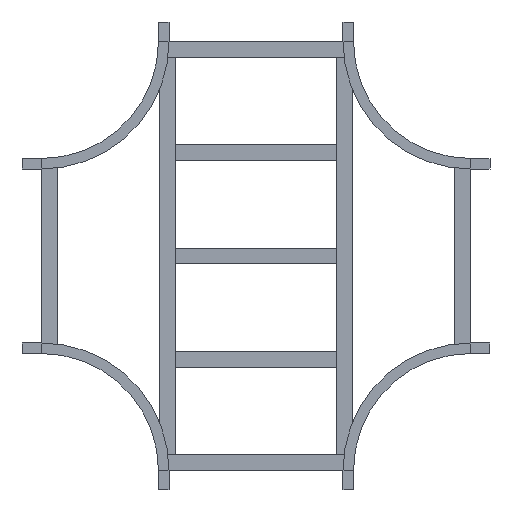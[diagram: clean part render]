
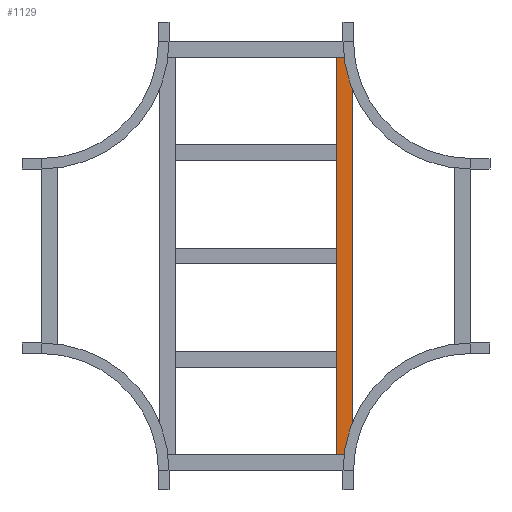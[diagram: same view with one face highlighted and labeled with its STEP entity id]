
A CAD part, front view. The second image highlights one B-rep face of the part: STEP entity #1129.
In plain terms, the highlighted planar face has unit normal (0, -1, 0).
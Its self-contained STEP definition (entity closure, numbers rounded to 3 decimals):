
#21 = VERTEX_POINT ( 'NONE', #921 ) ;
#59 = VECTOR ( 'NONE', #1193, 1000. ) ;
#104 = VECTOR ( 'NONE', #144, 1000. ) ;
#144 = DIRECTION ( 'NONE',  ( 0., 0., -1. ) ) ;
#169 = PLANE ( 'NONE',  #748 ) ;
#216 = ORIENTED_EDGE ( 'NONE', *, *, #580, .F. ) ;
#316 = EDGE_CURVE ( 'NONE', #955, #21, #1016, .T. ) ;
#332 = LINE ( 'NONE', #337, #1062 ) ;
#337 = CARTESIAN_POINT ( 'NONE',  ( 509.5, 0., 20.25 ) ) ;
#341 = EDGE_CURVE ( 'NONE', #688, #660, #332, .T. ) ;
#344 = LINE ( 'NONE', #1337, #59 ) ;
#498 = CARTESIAN_POINT ( 'NONE',  ( 509.5, 0., -20.25 ) ) ;
#540 = CARTESIAN_POINT ( 'NONE',  ( 509.5, 0., 20.25 ) ) ;
#576 = CARTESIAN_POINT ( 'NONE',  ( -509.5, 0., 20.25 ) ) ;
#580 = EDGE_CURVE ( 'NONE', #660, #21, #344, .T. ) ;
#606 = CARTESIAN_POINT ( 'NONE',  ( 509.5, 0., 20.25 ) ) ;
#660 = VERTEX_POINT ( 'NONE', #498 ) ;
#687 = CARTESIAN_POINT ( 'NONE',  ( -509.5, 0., 20.25 ) ) ;
#688 = VERTEX_POINT ( 'NONE', #929 ) ;
#748 = AXIS2_PLACEMENT_3D ( 'NONE', #606, #1366, #1038 ) ;
#776 = DIRECTION ( 'NONE',  ( -1., 0., 0. ) ) ;
#829 = ORIENTED_EDGE ( 'NONE', *, *, #1236, .T. ) ;
#858 = LINE ( 'NONE', #540, #923 ) ;
#901 = ORIENTED_EDGE ( 'NONE', *, *, #316, .T. ) ;
#921 = CARTESIAN_POINT ( 'NONE',  ( -509.5, 0., -20.25 ) ) ;
#923 = VECTOR ( 'NONE', #776, 1000. ) ;
#929 = CARTESIAN_POINT ( 'NONE',  ( 509.5, 0., 20.25 ) ) ;
#955 = VERTEX_POINT ( 'NONE', #576 ) ;
#982 = EDGE_LOOP ( 'NONE', ( #901, #216, #1363, #829 ) ) ;
#1016 = LINE ( 'NONE', #687, #104 ) ;
#1038 = DIRECTION ( 'NONE',  ( 0., 0., 1. ) ) ;
#1062 = VECTOR ( 'NONE', #1077, 1000. ) ;
#1077 = DIRECTION ( 'NONE',  ( 0., 0., -1. ) ) ;
#1129 = ADVANCED_FACE ( 'NONE', ( #1149 ), #169, .F. ) ;
#1149 = FACE_OUTER_BOUND ( 'NONE', #982, .T. ) ;
#1193 = DIRECTION ( 'NONE',  ( -1., 0., 0. ) ) ;
#1236 = EDGE_CURVE ( 'NONE', #688, #955, #858, .T. ) ;
#1337 = CARTESIAN_POINT ( 'NONE',  ( 509.5, 0., -20.25 ) ) ;
#1363 = ORIENTED_EDGE ( 'NONE', *, *, #341, .F. ) ;
#1366 = DIRECTION ( 'NONE',  ( 0., 1., 0. ) ) ;
